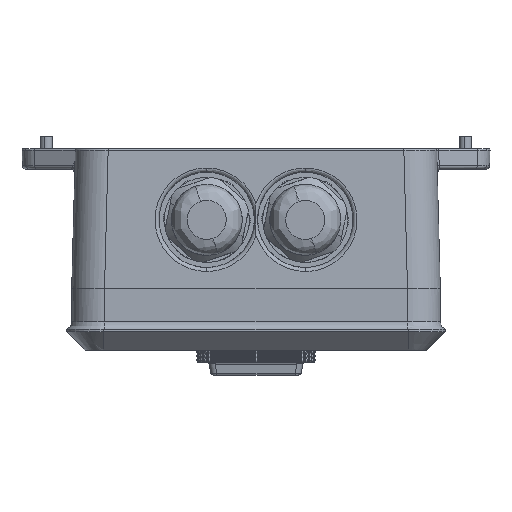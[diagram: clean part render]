
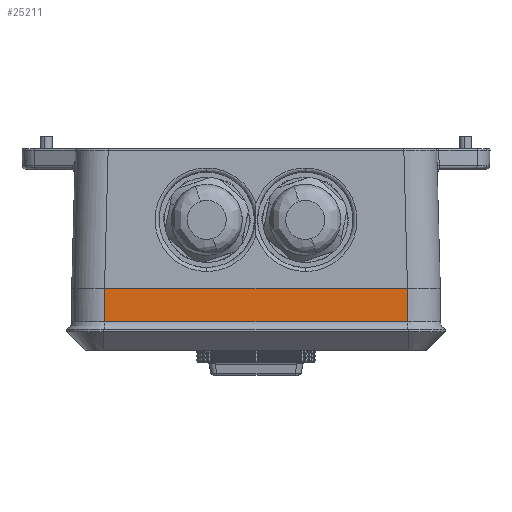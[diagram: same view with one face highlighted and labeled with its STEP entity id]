
A CAD part, front view. The second image highlights one B-rep face of the part: STEP entity #25211.
In plain terms, the highlighted planar face has unit normal (0, -1, 0).
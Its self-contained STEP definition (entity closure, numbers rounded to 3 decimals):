
#1348 = CARTESIAN_POINT ( 'NONE',  ( -43.524, -135.89, -42.141 ) ) ;
#1499 = CARTESIAN_POINT ( 'NONE',  ( -36.893, -135.89, -42.141 ) ) ;
#1585 = DIRECTION ( 'NONE',  ( 1., 0., 0. ) ) ;
#3409 = EDGE_CURVE ( 'NONE', #21889, #59318, #61238, .T. ) ;
#6677 = CARTESIAN_POINT ( 'NONE',  ( -36.893, -135.89, -34. ) ) ;
#7569 = FACE_OUTER_BOUND ( 'NONE', #8867, .T. ) ;
#8867 = EDGE_LOOP ( 'NONE', ( #34467, #35139, #45052, #28291 ) ) ;
#9255 = DIRECTION ( 'NONE',  ( 0., 1., 0. ) ) ;
#10681 = CARTESIAN_POINT ( 'NONE',  ( 36.893, -135.89, -34. ) ) ;
#17758 = AXIS2_PLACEMENT_3D ( 'NONE', #71221, #9255, #48784 ) ;
#19623 = VECTOR ( 'NONE', #57260, 1000. ) ;
#19692 = CARTESIAN_POINT ( 'NONE',  ( 36.893, -135.89, -42.141 ) ) ;
#21889 = VERTEX_POINT ( 'NONE', #1499 ) ;
#23989 = VECTOR ( 'NONE', #63338, 1000. ) ;
#25006 = VECTOR ( 'NONE', #64126, 1000. ) ;
#25211 = ADVANCED_FACE ( 'NONE', ( #7569 ), #43148, .F. ) ;
#25277 = VERTEX_POINT ( 'NONE', #61277 ) ;
#28291 = ORIENTED_EDGE ( 'NONE', *, *, #52727, .F. ) ;
#32582 = EDGE_CURVE ( 'NONE', #59318, #58300, #69037, .T. ) ;
#32896 = LINE ( 'NONE', #6677, #19623 ) ;
#34467 = ORIENTED_EDGE ( 'NONE', *, *, #3409, .T. ) ;
#35139 = ORIENTED_EDGE ( 'NONE', *, *, #32582, .T. ) ;
#40834 = EDGE_CURVE ( 'NONE', #25277, #58300, #70044, .T. ) ;
#43148 = PLANE ( 'NONE',  #17758 ) ;
#45052 = ORIENTED_EDGE ( 'NONE', *, *, #40834, .F. ) ;
#48784 = DIRECTION ( 'NONE',  ( 0., 0., 1. ) ) ;
#52727 = EDGE_CURVE ( 'NONE', #21889, #25277, #32896, .T. ) ;
#55960 = VECTOR ( 'NONE', #1585, 1000. ) ;
#57260 = DIRECTION ( 'NONE',  ( 0., 0., 1. ) ) ;
#57680 = CARTESIAN_POINT ( 'NONE',  ( 36.893, -135.89, -38.095 ) ) ;
#58300 = VERTEX_POINT ( 'NONE', #10681 ) ;
#59318 = VERTEX_POINT ( 'NONE', #19692 ) ;
#61238 = LINE ( 'NONE', #1348, #55960 ) ;
#61277 = CARTESIAN_POINT ( 'NONE',  ( -36.893, -135.89, -34. ) ) ;
#63338 = DIRECTION ( 'NONE',  ( 0., 0., 1. ) ) ;
#64126 = DIRECTION ( 'NONE',  ( 1., 0., 0. ) ) ;
#64624 = CARTESIAN_POINT ( 'NONE',  ( -36.893, -135.89, -34. ) ) ;
#69037 = LINE ( 'NONE', #57680, #23989 ) ;
#70044 = LINE ( 'NONE', #64624, #25006 ) ;
#71221 = CARTESIAN_POINT ( 'NONE',  ( -36.893, -135.89, -34. ) ) ;
